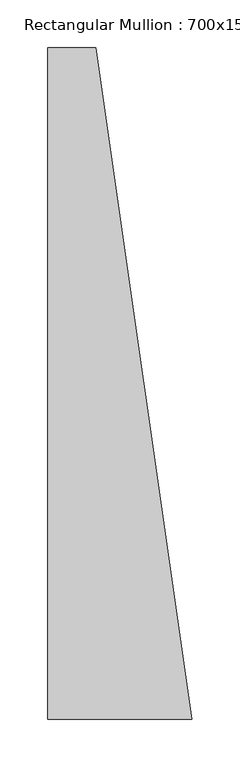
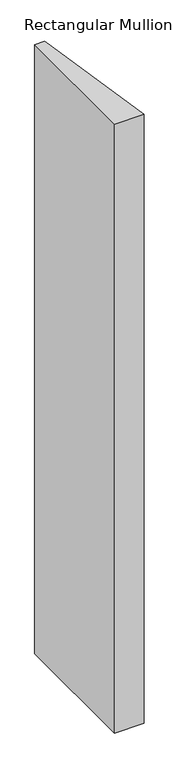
"""IFC4 building model written with IfcOpenShell, lengths in millimetres: member geometry, Rectangular Mullion : 700x150x50mm."""

from ifc_helpers import new_model, si_unit, frame, origin, place, context, project, spatial, polyline, outline, extrude, source, transform, mapped, element, save


def rectangular_mullion_700x150x50mm_a1b93181(model_context):
    return source(origin(), model_context, "Body", "SweptSolid", [
        extrude(outline(polyline([(-150.0, -350.0), (-150.0, 350.0), (-100.0, 350.0), (0.0, -350.0), (-150.0, -350.0)])), frame((0.0, 0.0, -3258.3333329), z_axis=(0.0, 0.0, 1.0), x_axis=(1.0, 0.0, 0.0)), (0.0, 0.0, 1.0), 3258.3333329),
    ])


if __name__ == "__main__":
    model = new_model("IFC4")
    model_context = context("Model", 3, world=origin())
    ifc_project = project(units=[si_unit("LENGTHUNIT", "METRE", prefix="MILLI")], contexts=[model_context])
    site = spatial("IfcSite", under=ifc_project)
    building = spatial("IfcBuilding", under=site)
    placement = place(None, origin())
    rectangular_mullion_700x150x50mm_shape = rectangular_mullion_700x150x50mm_a1b93181(model_context)
    element("IfcMember", 1, ObjectType="Rectangular Mullion : 700x150x50mm", at=placement, inside=building, context=model_context, shape_type="MappedRepresentation", body=[
        mapped(rectangular_mullion_700x150x50mm_shape, transform((0.0, 0.0, 0.0), x_axis=(1.0, 0.0, 0.0), y_axis=(0.0, 1.0, 0.0), z_axis=(0.0, 0.0, 1.0))),
    ])
    save(model, "model.ifc")
